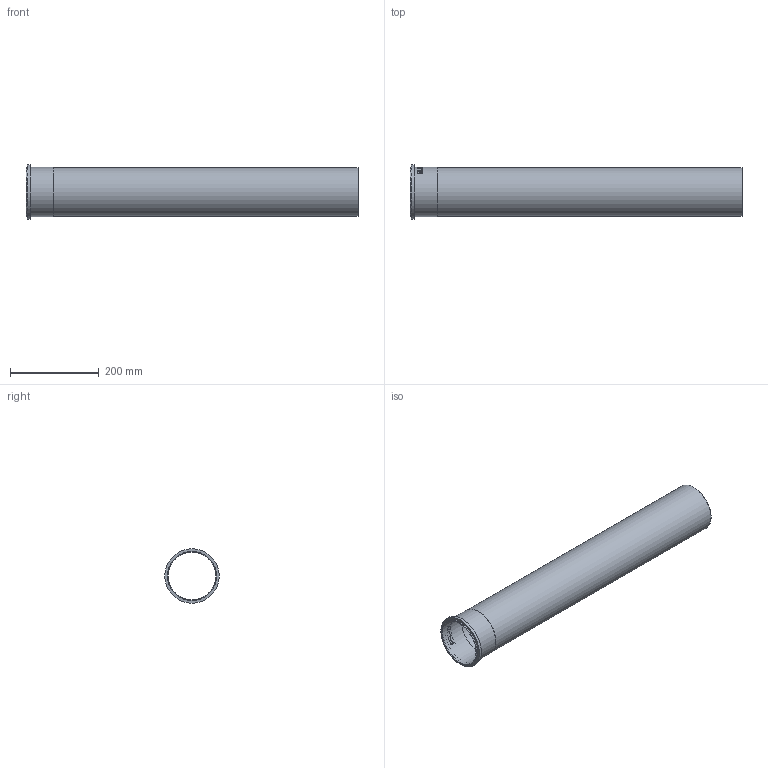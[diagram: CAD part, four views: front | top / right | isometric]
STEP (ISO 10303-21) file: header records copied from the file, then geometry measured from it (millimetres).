
FILE_DESCRIPTION((''),'2;1');
FILE_NAME('I:\WATTS\3D_CAD\3D_CAD_Models\Blucher_Drains\P_StraightPipe\WebsiteFiles\3D\STEP\P4-2.5-316.stp','2009-12-02T14:20:35',('menesek'),(''),'Autodesk Inventor 2010','Autodesk Inventor 2010','');
FILE_SCHEMA(('AUTOMOTIVE_DESIGN { 1 0 10303 214 1 1 1 1 }'));
Length unit declared in the file: inch
Products named in the file (1): P4-2.5-316
Bounding box: 750 x 122.94 x 122.94 mm (x, y, z)
Volume: 288091.3 mm3; surface area: 519517.1 mm2
Topology: 1 solids, 1 shells, 109 faces, 285 edges, 190 vertices
Faces by surface type: plane 59, bspline 34, cylinder 16
Full cylindrical faces by diameter (mm): 107.95 x1, 109.982 x1, 111.252 x2, 122.936 x1
Entity records: 13900 total; most frequent: CARTESIAN_POINT 11522, ORIENTED_EDGE 548, DIRECTION 356, EDGE_CURVE 274, VERTEX_POINT 186, EDGE_LOOP 128, AXIS2_PLACEMENT_3D 120, VECTOR 116
